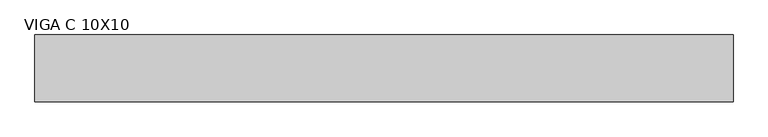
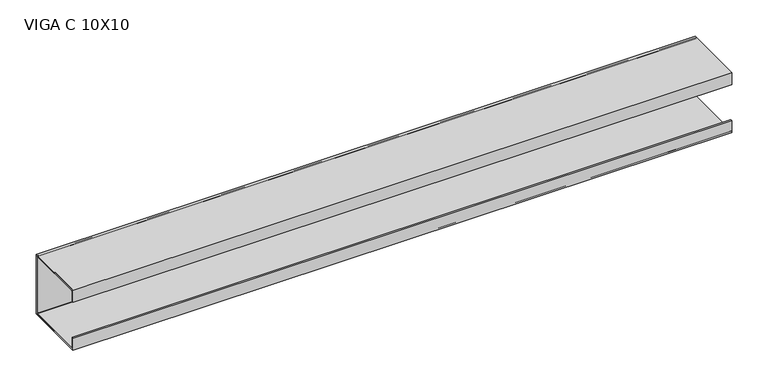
"""IFC4 building model written with IfcOpenShell, lengths in millimetres: beam geometry, VIGA PERFIL C AÇO : VIGA C 10X10."""

import ifcopenshell
import ifcopenshell.guid

model = None  # the IFC model being written
_history = None  # IfcOwnerHistory: only IFC2X3 demands one
_inside = {}  # id of a spatial element -> (the spatial element, [elements in it])
_under = {}  # id of a project, library or spatial element -> (it, [spatial elements below it])
_declared = {}  # id of a project -> (the project, [libraries it declares])
_typed = {}  # id of a type object -> (the type object, [elements of that type])
_made_of = {}  # id of a material, layer set ... -> (it, [elements and type objects made of it])


def new_model(schema):
    """Start an empty IFC model of exactly this schema.

    Asked for "IFC4X3", IfcOpenShell would pick the latest addendum, in which some entities
    have other attributes; the version numbers below select the first issue.
    IFC2X3 requires an IfcOwnerHistory on every rooted entity: one is made here for all.
    """
    global model, _history
    if schema == "IFC4X3":
        model = ifcopenshell.file(schema_version=(4, 3, 0, 0))
    else:
        model = ifcopenshell.file(schema=schema)
    _inside.clear()
    _under.clear()
    _declared.clear()
    _typed.clear()
    _made_of.clear()
    _history = None
    if model.schema == "IFC2X3":
        org = make("IfcOrganization", Name="unknown")
        user = make(
            "IfcPersonAndOrganization",
            ThePerson=make("IfcPerson", FamilyName="unknown"),
            TheOrganization=org,
        )
        app = make(
            "IfcApplication",
            ApplicationDeveloper=org,
            Version="unknown",
            ApplicationFullName="unknown",
            ApplicationIdentifier="unknown",
        )
        _history = make(
            "IfcOwnerHistory",
            OwningUser=user,
            OwningApplication=app,
            ChangeAction="ADDED",
            CreationDate=0,
        )
    return model


def make(cls, **values):
    """One entity of the class cls with the attributes given. An attribute that is None is left unset."""
    return model.create_entity(
        cls, **{name: value for name, value in values.items() if value is not None}
    )


def rooted(cls, **values):
    """An entity with a GlobalId (a new one), such as an element, a storey or a relation."""
    return make(cls, GlobalId=ifcopenshell.guid.new(), OwnerHistory=_history, **values)


def si_unit(unit_type, name, prefix=None):
    """IfcSIUnit, for example si_unit("LENGTHUNIT", "METRE", prefix="MILLI")."""
    return make("IfcSIUnit", UnitType=unit_type, Prefix=prefix, Name=name)


def assignment(units):
    """IfcUnitAssignment: the units of a project."""
    return None if units is None else make("IfcUnitAssignment", Units=units)


def point(xyz):
    """IfcCartesianPoint."""
    return None if xyz is None else make("IfcCartesianPoint", Coordinates=xyz)


def direction(xyz):
    """IfcDirection."""
    return None if xyz is None else make("IfcDirection", DirectionRatios=xyz)


def frame(location, z_axis=None, x_axis=None):
    """IfcAxis2Placement3D, a coordinate frame: its origin and axes. An axis left out is left unset."""
    return make(
        "IfcAxis2Placement3D",
        Location=point(location),
        Axis=direction(z_axis),
        RefDirection=direction(x_axis),
    )


def frame_2d(location, x_axis=None):
    """IfcAxis2Placement2D, a coordinate frame in the plane: its origin and x axis."""
    return make(
        "IfcAxis2Placement2D", Location=point(location), RefDirection=direction(x_axis)
    )


def origin():
    """The frame at (0, 0, 0) with its axes left unset."""
    return frame((0.0, 0.0, 0.0))


def place(relative_to, where):
    """IfcLocalPlacement: puts the frame where relative to a parent placement (None: the world)."""
    return make(
        "IfcLocalPlacement", PlacementRelTo=relative_to, RelativePlacement=where
    )


def context(
    kind, dimensions, precision=None, world=None, true_north=None, identifier=None
):
    """IfcGeometricRepresentationContext, for example the 3D "Model" context."""
    return make(
        "IfcGeometricRepresentationContext",
        ContextIdentifier=identifier,
        ContextType=kind,
        CoordinateSpaceDimension=dimensions,
        Precision=precision,
        WorldCoordinateSystem=world,
        TrueNorth=true_north,
    )


def project(units=None, contexts=None):
    """IfcProject with its units and contexts."""
    return rooted(
        "IfcProject",
        Name="project",
        RepresentationContexts=contexts,
        UnitsInContext=assignment(units),
    )


def spatial(cls, under=None, at=None, **own):
    """A site, building, storey or space (cls), placed at a placement, below another one or the project."""
    s = rooted(cls, ObjectPlacement=at, **own)
    if under is not None:
        _under.setdefault(under.id(), (under, []))[1].append(s)
    return s


def polyline(points):
    """IfcPolyline through the points."""
    return make("IfcPolyline", Points=[point(p) for p in points])


def circle_curve(where, radius):
    """IfcCircle in the frame where."""
    return make("IfcCircle", Position=where, Radius=radius)


def trimmed(basis, trim1, trim2, sense, master):
    """IfcTrimmedCurve: the piece of a basis curve between two trims."""
    return make(
        "IfcTrimmedCurve",
        BasisCurve=basis,
        Trim1=trim1,
        Trim2=trim2,
        SenseAgreement=sense,
        MasterRepresentation=master,
    )


def segment(curve, same_sense, transition):
    """IfcCompositeCurveSegment."""
    return make(
        "IfcCompositeCurveSegment",
        Transition=transition,
        SameSense=same_sense,
        ParentCurve=curve,
    )


def composite_curve(segments, self_intersect=None):
    """IfcCompositeCurve: segments joined end to end."""
    return make("IfcCompositeCurve", Segments=segments, SelfIntersect=self_intersect)


def outline(outer, holes=None, kind="AREA"):
    """IfcArbitraryClosedProfileDef: a profile drawn as a closed curve; with holes, ...WithVoids."""
    if holes is None:
        return make("IfcArbitraryClosedProfileDef", ProfileType=kind, OuterCurve=outer)
    return make(
        "IfcArbitraryProfileDefWithVoids",
        ProfileType=kind,
        OuterCurve=outer,
        InnerCurves=holes,
    )


def extrude(swept, where, along, depth):
    """IfcExtrudedAreaSolid: the profile swept, set in the frame where, extruded along a direction by depth."""
    return make(
        "IfcExtrudedAreaSolid",
        SweptArea=swept,
        Position=where,
        ExtrudedDirection=direction(along),
        Depth=depth,
    )


def shape(context_of_items, identifier, shape_type, items):
    """IfcShapeRepresentation: the items that make up one representation, for example the "Body"."""
    return make(
        "IfcShapeRepresentation",
        ContextOfItems=context_of_items,
        RepresentationIdentifier=identifier,
        RepresentationType=shape_type,
        Items=items,
    )


def source(mapping_origin, context_of_items, identifier, shape_type, items):
    """IfcRepresentationMap: a shape defined once, which mapped items show again and again."""
    return make(
        "IfcRepresentationMap",
        MappingOrigin=mapping_origin,
        MappedRepresentation=shape(context_of_items, identifier, shape_type, items),
    )


def transform(
    local_origin,
    x_axis=None,
    y_axis=None,
    z_axis=None,
    scale=None,
    scale2=None,
    scale3=None,
    uniform=True,
):
    """IfcCartesianTransformationOperator3D, or its non-uniform kind. x_axis, y_axis, z_axis: its Axis1, 2, 3."""
    if uniform:
        return make(
            "IfcCartesianTransformationOperator3D",
            Axis1=direction(x_axis),
            Axis2=direction(y_axis),
            LocalOrigin=point(local_origin),
            Scale=scale,
            Axis3=direction(z_axis),
        )
    return make(
        "IfcCartesianTransformationOperator3DnonUniform",
        Axis1=direction(x_axis),
        Axis2=direction(y_axis),
        LocalOrigin=point(local_origin),
        Scale=scale,
        Axis3=direction(z_axis),
        Scale2=scale2,
        Scale3=scale3,
    )


def mapped(mapping_source, mapping_target):
    """IfcMappedItem: shows the shape of a source again, moved by a transform."""
    return make(
        "IfcMappedItem", MappingSource=mapping_source, MappingTarget=mapping_target
    )


def made_of(thing, what):
    """Note that an element or type object is made of a material, layer set ...; save() writes the relation."""
    if what is not None:
        _made_of.setdefault(what.id(), (what, []))[1].append(thing)
    return thing


def element(
    cls,
    number,
    at=None,
    inside=None,
    cuts=None,
    type_object=None,
    material=None,
    context=None,
    identifier="Body",
    shape_type=None,
    held_by="IfcProductDefinitionShape",
    body=None,
    shapes=None,
    **own,
):
    """One element of the class cls, such as IfcWall. Its Tag is "e" and its number.

    at: its placement. inside: the storey or other place that contains it. cuts: it is an
    opening in that element (IfcRelVoidsElement). A single representation is given by context,
    identifier, shape_type and body (its items); several are given by shapes. held_by: the class
    of the entity that holds the representations. save() writes the other relations.
    """
    e = rooted(cls, Tag="e%d" % number, ObjectPlacement=at, **own)
    if body is not None:
        shapes = [shape(context, identifier, shape_type, body)]
    if shapes is not None:
        e.Representation = make(held_by, Representations=shapes)
    if inside is not None:
        _inside.setdefault(inside.id(), (inside, []))[1].append(e)
    if cuts is not None:
        rooted(
            "IfcRelVoidsElement", RelatingBuildingElement=cuts, RelatedOpeningElement=e
        )
    if type_object is not None:
        _typed.setdefault(type_object.id(), (type_object, []))[1].append(e)
    return made_of(e, material)


def aggregate(whole, parts):
    """IfcRelAggregates: a whole, such as a stair, and the parts it consists of."""
    return rooted("IfcRelAggregates", RelatingObject=whole, RelatedObjects=parts)


def save(model, path):
    """Write the relations noted so far, then the file.

    IfcRelAggregates (storeys below a building ...), IfcRelContainedInSpatialStructure (elements
    in a storey), IfcRelDefinesByType, IfcRelAssociatesMaterial and IfcRelDeclares: one each for
    every whole, place, type object, material and project.
    """
    for whole, parts in _under.values():
        aggregate(whole, parts)
    for where, things in _inside.values():
        rooted(
            "IfcRelContainedInSpatialStructure",
            RelatedElements=things,
            RelatingStructure=where,
        )
    for kind, things in _typed.values():
        rooted("IfcRelDefinesByType", RelatedObjects=things, RelatingType=kind)
    for what, things in _made_of.values():
        rooted("IfcRelAssociatesMaterial", RelatedObjects=things, RelatingMaterial=what)
    for by, libraries in _declared.values():
        rooted("IfcRelDeclares", RelatingContext=by, RelatedDefinitions=libraries)
    model.write(path)


def viga_c_10x10_22368504(model_context):
    return source(origin(), model_context, "Body", "SweptSolid", [
        extrude(outline(polyline([(9.2, -50.0), (-90.8, -50.0), (-90.8, -30.0), (-88.9, -30.0), (-88.9, -48.1), (7.3, -48.1), (7.3, 48.1), (-88.9, 48.1), (-88.9, 30.0), (-90.8, 30.0), (-90.8, 50.0), (9.2, 50.0), (9.2, -50.0)])), frame((-528.5, 0.0, 0.0), z_axis=(1.0, 0.0, 0.0), x_axis=(0.0, 1.0, 0.0)), (0.0, 0.0, 1.0), 1042.0),
        extrude(outline(composite_curve([segment(trimmed(circle_curve(frame_2d((5.4, -46.2)), 3.8), [point((9.2, -46.2))], [point((5.4, -50.0))], False, "CARTESIAN"), True, "CONTINUOUS"), segment(polyline([(5.4, -50.0), (-87.0, -50.0)]), True, "CONTINUOUS"), segment(trimmed(circle_curve(frame_2d((-87.0, -46.2)), 3.8), [point((-87.0, -50.0))], [point((-90.8, -46.2))], False, "CARTESIAN"), True, "CONTINUOUS"), segment(polyline([(-90.8, -46.2), (-90.8, -30.0), (-88.9, -30.0), (-88.9, -46.2)]), True, "CONTINUOUS"), segment(trimmed(circle_curve(frame_2d((-87.0, -46.2)), 1.9), [point((-88.9, -46.2))], [point((-87.0, -48.1))], True, "CARTESIAN"), True, "CONTINUOUS"), segment(polyline([(-87.0, -48.1), (5.4, -48.1)]), True, "CONTINUOUS"), segment(trimmed(circle_curve(frame_2d((5.4, -46.2)), 1.9), [point((5.4, -48.1))], [point((7.3, -46.2))], True, "CARTESIAN"), True, "CONTINUOUS"), segment(polyline([(7.3, -46.2), (7.3, 46.2)]), True, "CONTINUOUS"), segment(trimmed(circle_curve(frame_2d((5.4, 46.2)), 1.9), [point((7.3, 46.2))], [point((5.4, 48.1))], True, "CARTESIAN"), True, "CONTINUOUS"), segment(polyline([(5.4, 48.1), (-87.0, 48.1)]), True, "CONTINUOUS"), segment(trimmed(circle_curve(frame_2d((-87.0, 46.2)), 1.9), [point((-87.0, 48.1))], [point((-88.9, 46.2))], True, "CARTESIAN"), True, "CONTINUOUS"), segment(polyline([(-88.9, 46.2), (-88.9, 30.0), (-90.8, 30.0), (-90.8, 46.2)]), True, "CONTINUOUS"), segment(trimmed(circle_curve(frame_2d((-87.0, 46.2)), 3.8), [point((-90.8, 46.2))], [point((-87.0, 50.0))], False, "CARTESIAN"), True, "CONTINUOUS"), segment(polyline([(-87.0, 50.0), (5.4, 50.0)]), True, "CONTINUOUS"), segment(trimmed(circle_curve(frame_2d((5.4, 46.2)), 3.8), [point((5.4, 50.0))], [point((9.2, 46.2))], False, "CARTESIAN"), True, "CONTINUOUS"), segment(polyline([(9.2, 46.2), (9.2, -46.2)]), True, "CONTINUOUS")], self_intersect=False)), frame((-528.5, 0.0, 0.0), z_axis=(1.0, 0.0, 0.0), x_axis=(0.0, 1.0, 0.0)), (0.0, 0.0, 1.0), 1042.0),
    ])


if __name__ == "__main__":
    model = new_model("IFC4")
    model_context = context("Model", 3, world=origin())
    ifc_project = project(units=[si_unit("LENGTHUNIT", "METRE", prefix="MILLI")], contexts=[model_context])
    site = spatial("IfcSite", under=ifc_project)
    building = spatial("IfcBuilding", under=site)
    placement = place(None, origin())
    viga_c_10x10_shape = viga_c_10x10_22368504(model_context)
    element("IfcBeam", 1, ObjectType="VIGA PERFIL C AÇO : VIGA C 10X10", at=placement, inside=building, context=model_context, shape_type="MappedRepresentation", body=[
        mapped(viga_c_10x10_shape, transform((0.0, 0.0, 0.0), x_axis=(1.0, 0.0, 0.0), y_axis=(0.0, 1.0, 0.0), z_axis=(0.0, 0.0, 1.0))),
    ])
    save(model, "model.ifc")
